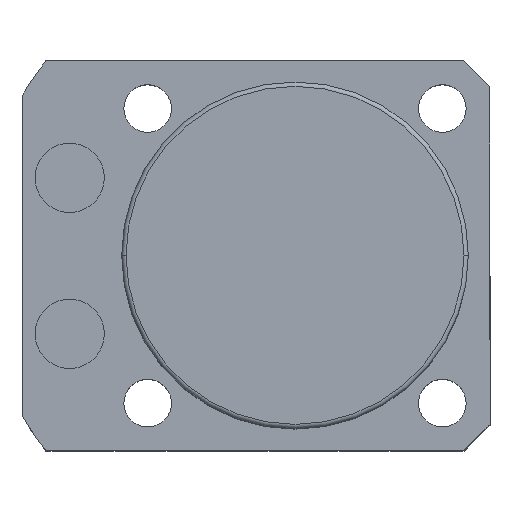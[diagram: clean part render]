
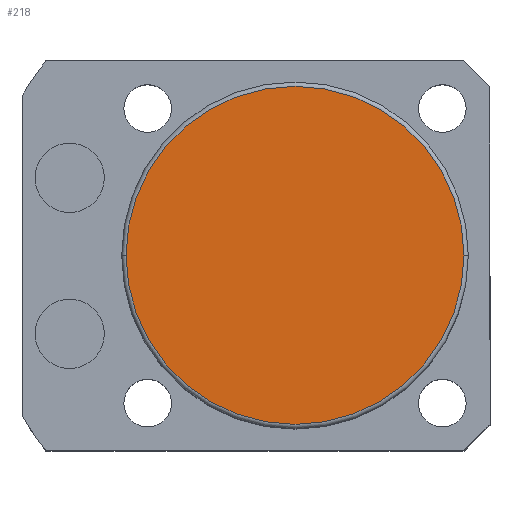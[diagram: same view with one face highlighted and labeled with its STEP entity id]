
A CAD part, top view. The second image highlights one B-rep face of the part: STEP entity #218.
In plain terms, the highlighted planar face has unit normal (0, 0, 1).
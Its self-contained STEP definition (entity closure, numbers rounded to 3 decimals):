
#27 = AXIS2_PLACEMENT_3D ( 'NONE', #981, #558, #777 ) ;
#160 = EDGE_CURVE ( 'NONE', #1211, #1841, #482, .T. ) ;
#218 = ADVANCED_FACE ( 'NONE', ( #1401 ), #1383, .T. ) ;
#357 = DIRECTION ( 'NONE',  ( 0., 0., 1. ) ) ;
#381 = ORIENTED_EDGE ( 'NONE', *, *, #160, .T. ) ;
#427 = EDGE_CURVE ( 'NONE', #1841, #1211, #1215, .T. ) ;
#482 = CIRCLE ( 'NONE', #27, 19.5 ) ;
#485 = CARTESIAN_POINT ( 'NONE',  ( 0., 0., 43.5 ) ) ;
#558 = DIRECTION ( 'NONE',  ( 0., 0., 1. ) ) ;
#586 = DIRECTION ( 'NONE',  ( 1., 0., 0. ) ) ;
#692 = CARTESIAN_POINT ( 'NONE',  ( -19.5, 0., 43.5 ) ) ;
#777 = DIRECTION ( 'NONE',  ( 1., 0., 0. ) ) ;
#862 = EDGE_LOOP ( 'NONE', ( #381, #1227 ) ) ;
#981 = CARTESIAN_POINT ( 'NONE',  ( 0., 0., 43.5 ) ) ;
#1098 = DIRECTION ( 'NONE',  ( 0., 0., 1. ) ) ;
#1211 = VERTEX_POINT ( 'NONE', #2647 ) ;
#1215 = CIRCLE ( 'NONE', #2578, 19.5 ) ;
#1227 = ORIENTED_EDGE ( 'NONE', *, *, #427, .T. ) ;
#1383 = PLANE ( 'NONE',  #1508 ) ;
#1401 = FACE_OUTER_BOUND ( 'NONE', #862, .T. ) ;
#1508 = AXIS2_PLACEMENT_3D ( 'NONE', #1615, #357, #586 ) ;
#1615 = CARTESIAN_POINT ( 'NONE',  ( 0., 0., 43.5 ) ) ;
#1841 = VERTEX_POINT ( 'NONE', #692 ) ;
#2170 = DIRECTION ( 'NONE',  ( 1., 0., 0. ) ) ;
#2578 = AXIS2_PLACEMENT_3D ( 'NONE', #485, #1098, #2170 ) ;
#2647 = CARTESIAN_POINT ( 'NONE',  ( 19.5, 0., 43.5 ) ) ;
